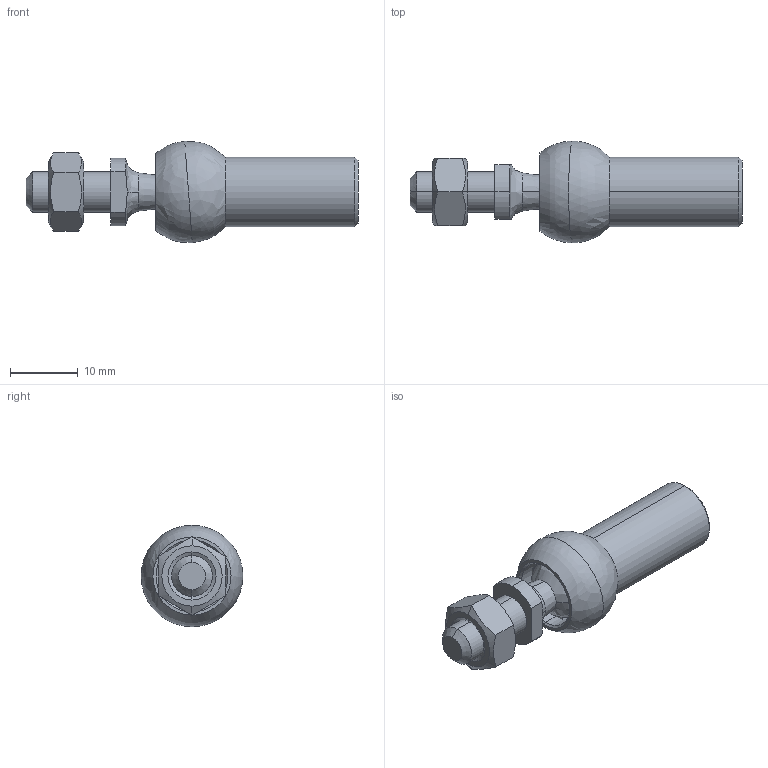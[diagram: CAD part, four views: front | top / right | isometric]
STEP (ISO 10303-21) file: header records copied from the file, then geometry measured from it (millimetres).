
FILE_DESCRIPTION (( 'STEP AP214' ), '1' );
FILE_NAME ('13.AG02.STEP', '2017-10-28T10:42:32', ( '' ), ( '' ), 'SwSTEP 2.0', 'SolidWorks 2016', '' );
FILE_SCHEMA (( 'AUTOMOTIVE_DESIGN' ));
Length unit declared in the file: millimetre
Products named in the file (1): 13.AG02
Bounding box: 48.97 x 15 x 14.96 mm (x, y, z)
Volume: 3530 mm3; surface area: 3110.4 mm2
Topology: 4 solids, 4 shells, 74 faces, 185 edges, 117 vertices
Faces by surface type: plane 22, cone 20, bspline 17, cylinder 15
Entity records: 4027 total; most frequent: CARTESIAN_POINT 1516, ORIENTED_EDGE 350, DIRECTION 321, EDGE_CURVE 175, AXIS2_PLACEMENT_3D 136, VERTEX_POINT 117, EDGE_LOOP 84, UNCERTAINTY_MEASURE_WITH_UNIT 80
